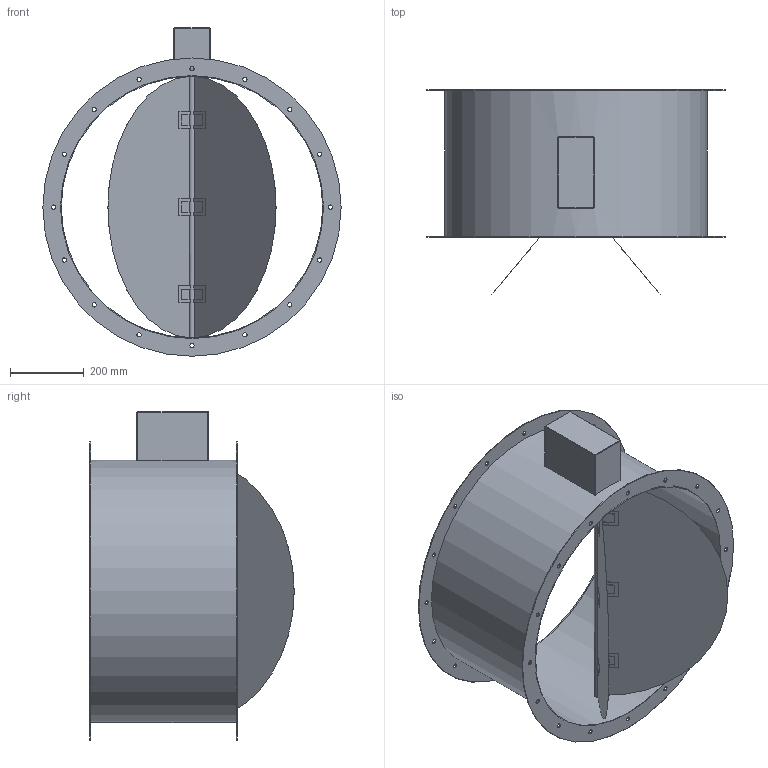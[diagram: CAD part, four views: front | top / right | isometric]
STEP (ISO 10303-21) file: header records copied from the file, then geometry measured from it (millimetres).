
FILE_DESCRIPTION(/* description */ (''),/* implementation_level */ '2;1');
FILE_NAME(/* name */ 'Z:\Output\RVM_710-02610-002.stp',/* time_stamp */ '2020-06-26T09:53:44+02:00',/* author */ ('engineering1'),/* organization */ (''),/* preprocessor_version */ 'ST-DEVELOPER v17.2',/* originating_system */ 'Autodesk Inventor 2019',/* authorisation */ '');
FILE_SCHEMA (('AUTOMOTIVE_DESIGN { 1 0 10303 214 3 1 1 }'));
Length unit declared in the file: millimetre
Products named in the file (1): RVM-1
Bounding box: 810 x 555.05 x 892 mm (x, y, z)
Volume: 4955427.9 mm3; surface area: 3138725.2 mm2
Topology: 1 solids, 1 shells, 124 faces, 335 edges, 218 vertices
Faces by surface type: plane 73, cylinder 47, sphere 4
Full cylindrical faces by diameter (mm): 11.5 x32, 17.75 x1, 710 x1, 714 x1, 810 x2
Entity records: 4164 total; most frequent: CARTESIAN_POINT 796, DIRECTION 677, ORIENTED_EDGE 670, EDGE_CURVE 335, AXIS2_PLACEMENT_3D 231, VERTEX_POINT 218, LINE 215, VECTOR 215
